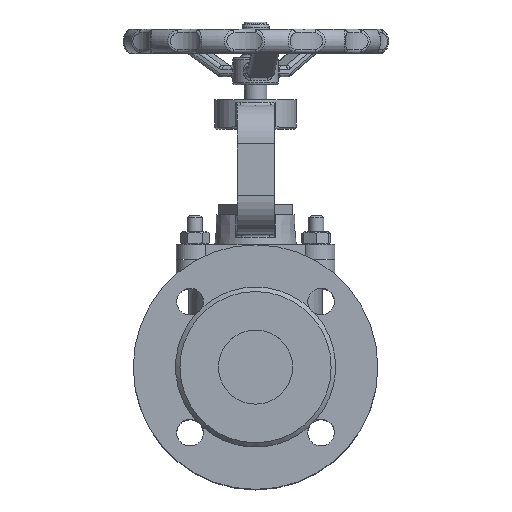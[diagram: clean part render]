
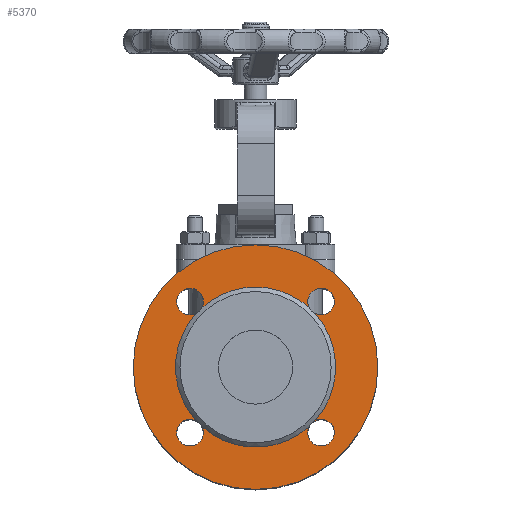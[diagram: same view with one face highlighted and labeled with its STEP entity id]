
A CAD part, top view. The second image highlights one B-rep face of the part: STEP entity #5370.
In plain terms, the highlighted planar face has unit normal (0, 0, 1).
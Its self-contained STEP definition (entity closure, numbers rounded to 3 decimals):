
#5370=ADVANCED_FACE('',(#13284,#13286),#13288,.F.);
#13284=FACE_BOUND('',#13285,.T.);
#13285=EDGE_LOOP('',(#20725));
#13286=FACE_BOUND('',#13287,.T.);
#13287=EDGE_LOOP('',(#20726,#20727,#20728,#20729,#20730,#20731,#20732,#20733,#20734,
#20735,#20736,#20737,#20738));
#13288=PLANE('',#13289);
#13289=AXIS2_PLACEMENT_3D('',#13290,#13291,#13292);
#13290=CARTESIAN_POINT('',(0.,0.,112.));
#13291=DIRECTION('',(0.,0.,-1.));
#13292=DIRECTION('',(0.,1.,0.));
#20725=ORIENTED_EDGE('',*,*,#23748,.T.);
#20726=ORIENTED_EDGE('',*,*,#23751,.T.);
#20727=ORIENTED_EDGE('',*,*,#23974,.F.);
#20728=ORIENTED_EDGE('',*,*,#23758,.T.);
#20729=ORIENTED_EDGE('',*,*,#23760,.T.);
#20730=ORIENTED_EDGE('',*,*,#23975,.F.);
#20731=ORIENTED_EDGE('',*,*,#23753,.T.);
#20732=ORIENTED_EDGE('',*,*,#23752,.T.);
#20733=ORIENTED_EDGE('',*,*,#23976,.F.);
#20734=ORIENTED_EDGE('',*,*,#23977,.F.);
#20735=ORIENTED_EDGE('',*,*,#23756,.T.);
#20736=ORIENTED_EDGE('',*,*,#23755,.T.);
#20737=ORIENTED_EDGE('',*,*,#23978,.F.);
#20738=ORIENTED_EDGE('',*,*,#23749,.T.);
#23748=EDGE_CURVE('',#27063,#27063,#27064,.T.);
#23749=EDGE_CURVE('',#27065,#27066,#27067,.T.);
#23751=EDGE_CURVE('',#27066,#27068,#27070,.T.);
#23752=EDGE_CURVE('',#27071,#27072,#27073,.T.);
#23753=EDGE_CURVE('',#27074,#27071,#27075,.T.);
#23755=EDGE_CURVE('',#27077,#27078,#27079,.T.);
#23756=EDGE_CURVE('',#27080,#27077,#27081,.T.);
#23758=EDGE_CURVE('',#27083,#27084,#27085,.T.);
#23760=EDGE_CURVE('',#27084,#27086,#27088,.T.);
#23974=EDGE_CURVE('',#27083,#27068,#27414,.T.);
#23975=EDGE_CURVE('',#27074,#27086,#27415,.T.);
#23976=EDGE_CURVE('',#27416,#27072,#27417,.T.);
#23977=EDGE_CURVE('',#27080,#27416,#27418,.T.);
#23978=EDGE_CURVE('',#27065,#27078,#27419,.T.);
#27063=VERTEX_POINT('',#53004);
#27064=CIRCLE('',#53005,82.5);
#27065=VERTEX_POINT('',#53009);
#27066=VERTEX_POINT('',#53010);
#27067=CIRCLE('',#53011,9.);
#27068=VERTEX_POINT('',#53015);
#27070=CIRCLE('',#53068,9.);
#27071=VERTEX_POINT('',#53072);
#27072=VERTEX_POINT('',#53073);
#27073=CIRCLE('',#53074,9.);
#27074=VERTEX_POINT('',#53078);
#27075=CIRCLE('',#53079,9.);
#27077=VERTEX_POINT('',#53135);
#27078=VERTEX_POINT('',#53136);
#27079=CIRCLE('',#53137,9.);
#27080=VERTEX_POINT('',#53141);
#27081=CIRCLE('',#53142,9.);
#27083=VERTEX_POINT('',#53198);
#27084=VERTEX_POINT('',#53199);
#27085=CIRCLE('',#53200,9.);
#27086=VERTEX_POINT('',#53204);
#27088=CIRCLE('',#53257,9.);
#27414=CIRCLE('',#56519,54.);
#27415=CIRCLE('',#56523,54.);
#27416=VERTEX_POINT('',#56527);
#27417=CIRCLE('',#56528,54.);
#27418=CIRCLE('',#56532,54.);
#27419=CIRCLE('',#56536,54.);
#53004=CARTESIAN_POINT('',(0.,82.5,112.));
#53005=AXIS2_PLACEMENT_3D('',#53006,#53007,#53008);
#53006=CARTESIAN_POINT('',(0.,0.,112.));
#53007=DIRECTION('',(0.,0.,1.));
#53008=DIRECTION('',(0.,1.,0.));
#53009=CARTESIAN_POINT('',(40.078,-36.191,112.));
#53010=CARTESIAN_POINT('',(44.194,-35.194,112.));
#53011=AXIS2_PLACEMENT_3D('',#53012,#53013,#53014);
#53012=CARTESIAN_POINT('',(44.194,-44.194,112.));
#53013=DIRECTION('',(0.,0.,-1.));
#53014=DIRECTION('',(-0.457,0.889,0.));
#53015=CARTESIAN_POINT('',(36.191,-40.078,112.));
#53068=AXIS2_PLACEMENT_3D('',#53069,#53070,#53071);
#53069=CARTESIAN_POINT('',(44.194,-44.194,112.));
#53070=DIRECTION('',(0.,0.,-1.));
#53071=DIRECTION('',(0.,1.,0.));
#53072=CARTESIAN_POINT('',(-44.194,35.194,112.));
#53073=CARTESIAN_POINT('',(-36.191,40.078,112.));
#53074=AXIS2_PLACEMENT_3D('',#53075,#53076,#53077);
#53075=CARTESIAN_POINT('',(-44.194,44.194,112.));
#53076=DIRECTION('',(0.,0.,-1.));
#53077=DIRECTION('',(0.,-1.,0.));
#53078=CARTESIAN_POINT('',(-40.078,36.191,112.));
#53079=AXIS2_PLACEMENT_3D('',#53080,#53081,#53082);
#53080=CARTESIAN_POINT('',(-44.194,44.194,112.));
#53081=DIRECTION('',(0.,0.,-1.));
#53082=DIRECTION('',(0.457,-0.889,0.));
#53135=CARTESIAN_POINT('',(35.194,44.194,112.));
#53136=CARTESIAN_POINT('',(40.078,36.191,112.));
#53137=AXIS2_PLACEMENT_3D('',#53138,#53139,#53140);
#53138=CARTESIAN_POINT('',(44.194,44.194,112.));
#53139=DIRECTION('',(0.,0.,-1.));
#53140=DIRECTION('',(-1.,0.,0.));
#53141=CARTESIAN_POINT('',(36.191,40.078,112.));
#53142=AXIS2_PLACEMENT_3D('',#53143,#53144,#53145);
#53143=CARTESIAN_POINT('',(44.194,44.194,112.));
#53144=DIRECTION('',(0.,0.,-1.));
#53145=DIRECTION('',(-0.889,-0.457,0.));
#53198=CARTESIAN_POINT('',(-36.191,-40.078,112.));
#53199=CARTESIAN_POINT('',(-35.194,-44.194,112.));
#53200=AXIS2_PLACEMENT_3D('',#53201,#53202,#53203);
#53201=CARTESIAN_POINT('',(-44.194,-44.194,112.));
#53202=DIRECTION('',(0.,0.,-1.));
#53203=DIRECTION('',(0.889,0.457,0.));
#53204=CARTESIAN_POINT('',(-40.078,-36.191,112.));
#53257=AXIS2_PLACEMENT_3D('',#53258,#53259,#53260);
#53258=CARTESIAN_POINT('',(-44.194,-44.194,112.));
#53259=DIRECTION('',(0.,0.,-1.));
#53260=DIRECTION('',(1.,0.,0.));
#56519=AXIS2_PLACEMENT_3D('',#56520,#56521,#56522);
#56520=CARTESIAN_POINT('',(0.,0.,112.));
#56521=DIRECTION('',(0.,0.,1.));
#56522=DIRECTION('',(-0.67,-0.742,0.));
#56523=AXIS2_PLACEMENT_3D('',#56524,#56525,#56526);
#56524=CARTESIAN_POINT('',(0.,0.,112.));
#56525=DIRECTION('',(0.,0.,1.));
#56526=DIRECTION('',(-0.742,0.67,0.));
#56527=CARTESIAN_POINT('',(0.,54.,112.));
#56528=AXIS2_PLACEMENT_3D('',#56529,#56530,#56531);
#56529=CARTESIAN_POINT('',(0.,0.,112.));
#56530=DIRECTION('',(0.,0.,1.));
#56531=DIRECTION('',(0.,1.,0.));
#56532=AXIS2_PLACEMENT_3D('',#56533,#56534,#56535);
#56533=CARTESIAN_POINT('',(0.,0.,112.));
#56534=DIRECTION('',(0.,0.,1.));
#56535=DIRECTION('',(0.67,0.742,0.));
#56536=AXIS2_PLACEMENT_3D('',#56537,#56538,#56539);
#56537=CARTESIAN_POINT('',(0.,0.,112.));
#56538=DIRECTION('',(0.,0.,1.));
#56539=DIRECTION('',(0.742,-0.67,0.));
